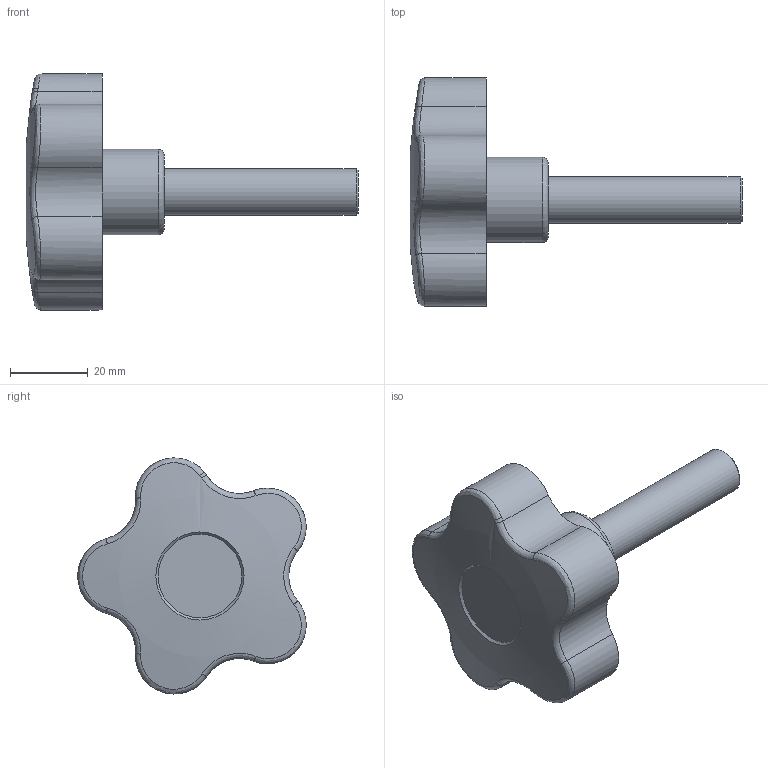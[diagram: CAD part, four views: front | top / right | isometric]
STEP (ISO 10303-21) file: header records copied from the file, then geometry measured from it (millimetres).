
FILE_DESCRIPTION(('STEP AP214'), '1');
FILE_NAME('Ðó÷êà ïÿòèëåïåñòêîâàÿ 100208-63 Ì12 50', '', ('UNSPECIFIED'), ('UNSPECIFIED'), 'ASCON STEP Converter 1.6', 'ASCON Math Kernel', '');
FILE_SCHEMA(('AUTOMOTIVE_DESIGN { 1 0 10303 214 3 1 1}'));
Length unit declared in the file: millimetre
Bounding box: 85.61 x 58.89 x 60.88 mm (x, y, z)
Volume: 41072.9 mm3; surface area: 14169 mm2
Topology: 1 solids, 1 shells, 44 faces, 103 edges, 64 vertices
Faces by surface type: cylinder 23, bspline 11, plane 5, cone 3, sphere 1, torus 1
Full cylindrical faces by diameter (mm): 12 x1, 22 x1, 25 x1
Entity records: 3151 total; most frequent: CARTESIAN_POINT 1841, ORIENTED_EDGE 190, DIRECTION 172, EDGE_CURVE 95, AXIS2_PLACEMENT_3D 76, VERTEX_POINT 64, EDGE_LOOP 55, COLOUR_RGB 45
